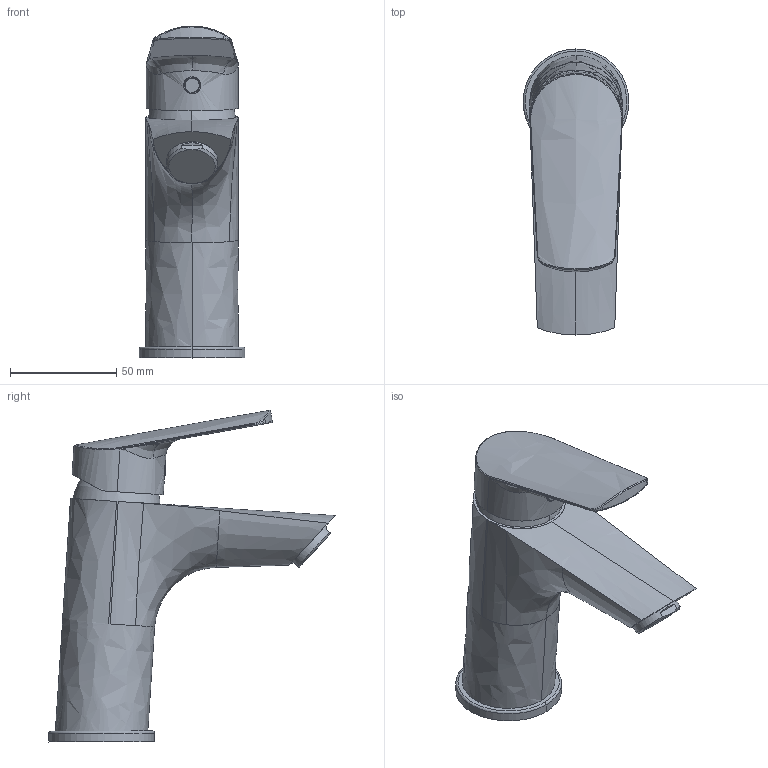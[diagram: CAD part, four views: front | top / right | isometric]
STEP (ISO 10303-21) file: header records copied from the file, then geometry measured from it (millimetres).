
FILE_DESCRIPTION(/* description */ (''),/* implementation_level */ '2;1');
FILE_NAME(/* name */ 'N11011002010',/* time_stamp */ '2021-10-26T09:55:44+02:00',/* author */ (''),/* organization */ (''),/* preprocessor_version */ 'ST-DEVELOPER v15',/* originating_system */ '',/* authorisation */ '');
FILE_SCHEMA (('AUTOMOTIVE_DESIGN'));
Length unit declared in the file: millimetre
Products named in the file (1): Document
Bounding box: 49.7 x 134.98 x 156.43 mm (x, y, z)
Volume: 13233.9 mm3; surface area: 42885.5 mm2
Topology: 3 solids, 6 shells, 104 faces, 247 edges, 158 vertices
Faces by surface type: bspline 76, plane 28
Entity records: 6397 total; most frequent: CARTESIAN_POINT 4879, ORIENTED_EDGE 485, EDGE_CURVE 247, VERTEX_POINT 158, B_SPLINE_CURVE_WITH_KNOTS 152, EDGE_LOOP 115, ADVANCED_FACE 103, FACE_OUTER_BOUND 103
